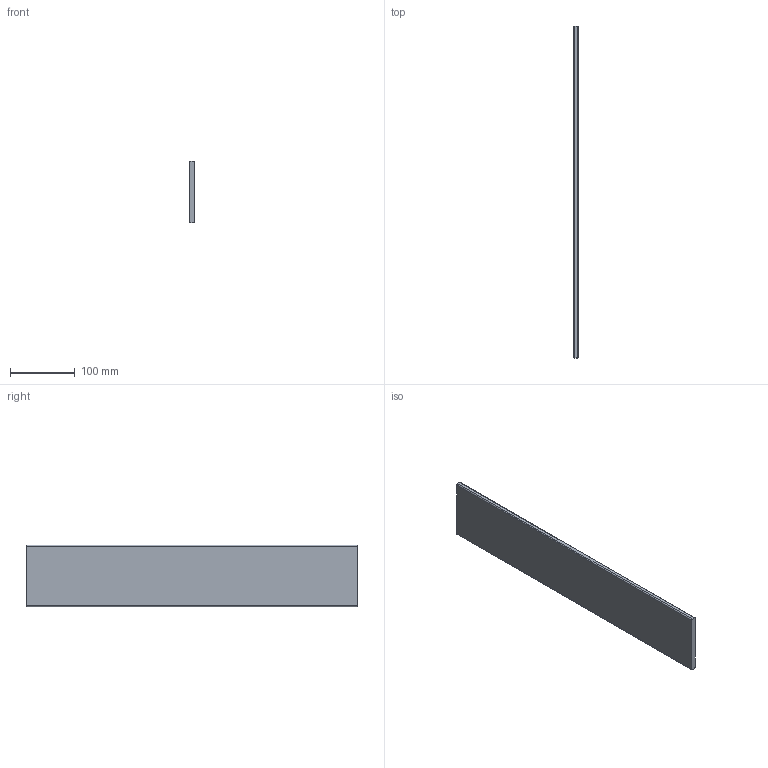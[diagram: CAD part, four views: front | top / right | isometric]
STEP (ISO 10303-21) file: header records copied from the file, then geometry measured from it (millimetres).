
FILE_DESCRIPTION (( 'STEP AP214' ), '1' );
FILE_NAME ('Einschubelement_Crystal_NL-550.step', '2012-01-05T14:08:10', ( 'Grass' ), ( '' ), 'SwSTEP 2.0', 'SolidWorks 2011', '' );
FILE_SCHEMA (( 'AUTOMOTIVE_DESIGN' ));
Length unit declared in the file: millimetre
Products named in the file (1): Einschubelement_Crystal_NL-550
Bounding box: 7.8 x 513 x 95.8 mm (x, y, z)
Volume: 382206.8 mm3; surface area: 106374.5 mm2
Topology: 1 solids, 1 shells, 10 faces, 24 edges, 16 vertices
Faces by surface type: plane 6, cylinder 4
Entity records: 330 total; most frequent: DIRECTION 54, CARTESIAN_POINT 51, ORIENTED_EDGE 48, EDGE_CURVE 24, AXIS2_PLACEMENT_3D 19, VECTOR 16, LINE 16, VERTEX_POINT 16
